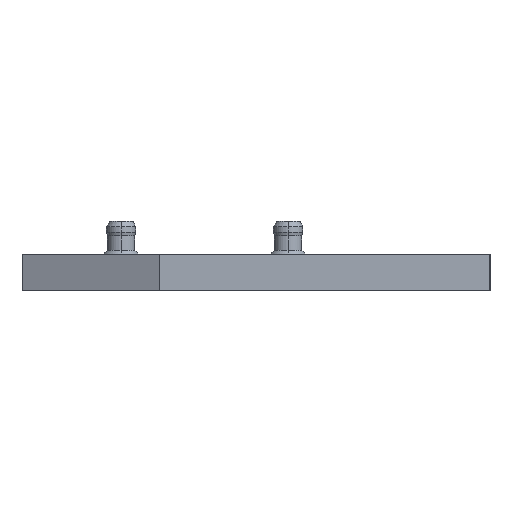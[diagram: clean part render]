
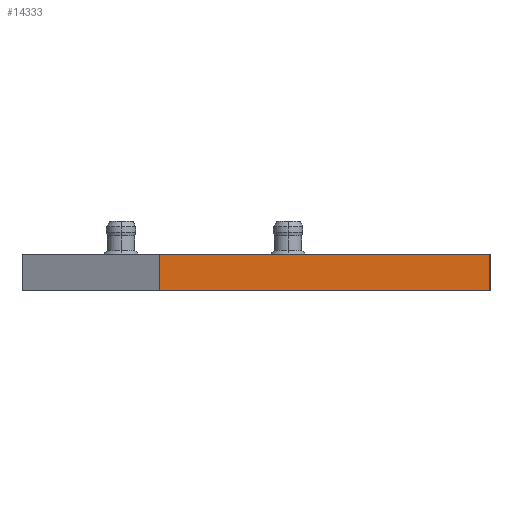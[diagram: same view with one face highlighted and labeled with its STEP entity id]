
A CAD part, left-side view. The second image highlights one B-rep face of the part: STEP entity #14333.
In plain terms, the highlighted planar face has unit normal (-1, 0, 0).
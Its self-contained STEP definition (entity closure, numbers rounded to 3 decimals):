
#342 = FACE_OUTER_BOUND ( 'NONE', #17014, .T. ) ;
#422 = ORIENTED_EDGE ( 'NONE', *, *, #1965, .F. ) ;
#897 = PLANE ( 'NONE',  #3223 ) ;
#1208 = ORIENTED_EDGE ( 'NONE', *, *, #10916, .T. ) ;
#1965 = EDGE_CURVE ( 'NONE', #2550, #11442, #6523, .T. ) ;
#2550 = VERTEX_POINT ( 'NONE', #13607 ) ;
#2591 = DIRECTION ( 'NONE',  ( 1., 0., 0. ) ) ;
#2643 = DIRECTION ( 'NONE',  ( 0., -1., 0. ) ) ;
#3223 = AXIS2_PLACEMENT_3D ( 'NONE', #13081, #2591, #14612 ) ;
#4382 = LINE ( 'NONE', #10665, #4781 ) ;
#4594 = DIRECTION ( 'NONE',  ( 0., 0., -1. ) ) ;
#4685 = DIRECTION ( 'NONE',  ( 0., -1., 0. ) ) ;
#4781 = VECTOR ( 'NONE', #2643, 1000. ) ;
#5256 = VECTOR ( 'NONE', #5919, 1000. ) ;
#5919 = DIRECTION ( 'NONE',  ( 0., 0., -1. ) ) ;
#6187 = ORIENTED_EDGE ( 'NONE', *, *, #7617, .F. ) ;
#6523 = LINE ( 'NONE', #8469, #5256 ) ;
#6935 = CARTESIAN_POINT ( 'NONE',  ( -35.738, 3.002, 0. ) ) ;
#7412 = CARTESIAN_POINT ( 'NONE',  ( -35.738, 0., 2. ) ) ;
#7617 = EDGE_CURVE ( 'NONE', #15201, #2550, #11969, .T. ) ;
#8469 = CARTESIAN_POINT ( 'NONE',  ( -35.738, -14.998, 2. ) ) ;
#9115 = EDGE_CURVE ( 'NONE', #15201, #12999, #15975, .T. ) ;
#10300 = VECTOR ( 'NONE', #4685, 1000. ) ;
#10509 = VECTOR ( 'NONE', #4594, 1000. ) ;
#10590 = ORIENTED_EDGE ( 'NONE', *, *, #9115, .T. ) ;
#10665 = CARTESIAN_POINT ( 'NONE',  ( -35.738, 0., 0. ) ) ;
#10916 = EDGE_CURVE ( 'NONE', #12999, #11442, #4382, .T. ) ;
#11442 = VERTEX_POINT ( 'NONE', #12642 ) ;
#11857 = CARTESIAN_POINT ( 'NONE',  ( -35.738, 3.002, 2. ) ) ;
#11969 = LINE ( 'NONE', #7412, #10300 ) ;
#12642 = CARTESIAN_POINT ( 'NONE',  ( -35.738, -14.998, 0. ) ) ;
#12999 = VERTEX_POINT ( 'NONE', #6935 ) ;
#13081 = CARTESIAN_POINT ( 'NONE',  ( -35.738, 0., 2. ) ) ;
#13607 = CARTESIAN_POINT ( 'NONE',  ( -35.738, -14.998, 2. ) ) ;
#14333 = ADVANCED_FACE ( 'NONE', ( #342 ), #897, .F. ) ;
#14612 = DIRECTION ( 'NONE',  ( 0., 0., -1. ) ) ;
#15068 = CARTESIAN_POINT ( 'NONE',  ( -35.738, 3.002, 2. ) ) ;
#15201 = VERTEX_POINT ( 'NONE', #11857 ) ;
#15975 = LINE ( 'NONE', #15068, #10509 ) ;
#17014 = EDGE_LOOP ( 'NONE', ( #1208, #422, #6187, #10590 ) ) ;
